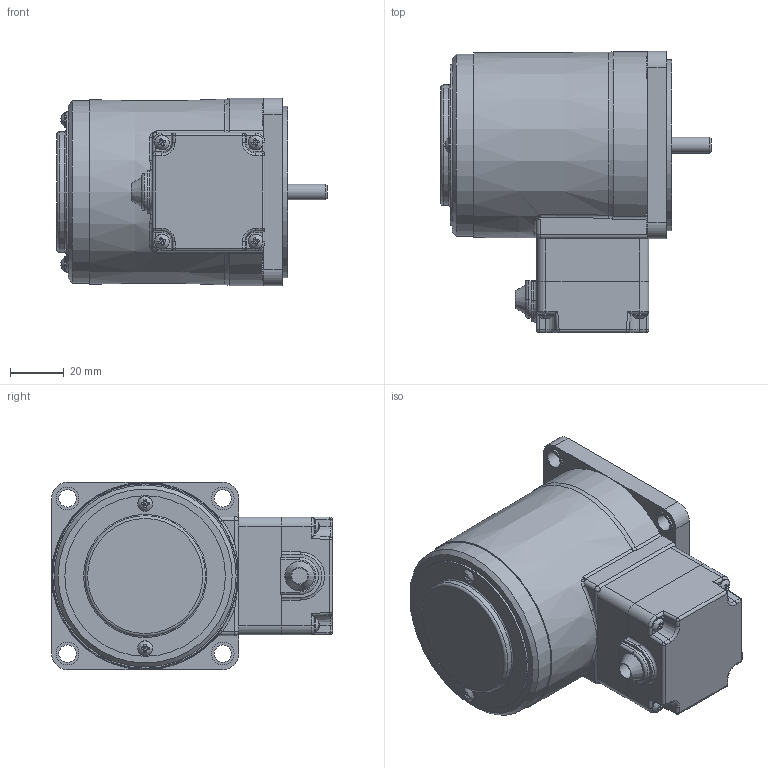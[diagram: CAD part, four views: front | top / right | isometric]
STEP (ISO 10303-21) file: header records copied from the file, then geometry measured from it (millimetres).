
FILE_DESCRIPTION(/* description */ (''),/* implementation_level */ '2;1');
FILE_NAME(/* name */ 'E:\도면작업\2016\0704) 미주향 SG 도면\3D MOTOR\TERMINAL BOX TYPE\REVERSIBLE TERMINAL BOX\SG7R15G_-T.stp',/* time_stamp */ '2017-01-24T08:33:13+09:00',/* author */ ('jy-jung'),/* organization */ (''),/* preprocessor_version */ 'ST-DEVELOPER v15.6',/* originating_system */ 'Autodesk Inventor 2015',/* authorisation */ '');
FILE_SCHEMA (('AUTOMOTIVE_DESIGN { 1 0 10303 214 3 1 1 }'));
Length unit declared in the file: millimetre
Products named in the file (1): 부품1
Bounding box: 101.1 x 105 x 70 mm (x, y, z)
Volume: 342547.5 mm3; surface area: 54348.4 mm2
Topology: 1 solids, 10 shells, 635 faces, 1621 edges, 1006 vertices
Faces by surface type: plane 319, cylinder 211, torus 45, bspline 24, cone 18, sphere 18
Full cylindrical faces by diameter (mm): 2.5 x2, 3 x6, 3.5 x10, 5.6 x6, 5.96 x1, 6 x1, 6.5 x4, 8 x1, 8.5 x4, 28 x1, 43 x1, 45 x1, 60 x1, 64 x1, 68 x1
Entity records: 20092 total; most frequent: CARTESIAN_POINT 4425, DIRECTION 3154, ORIENTED_EDGE 3040, EDGE_CURVE 1520, AXIS2_PLACEMENT_3D 1146, VERTEX_POINT 996, LINE 862, VECTOR 862
